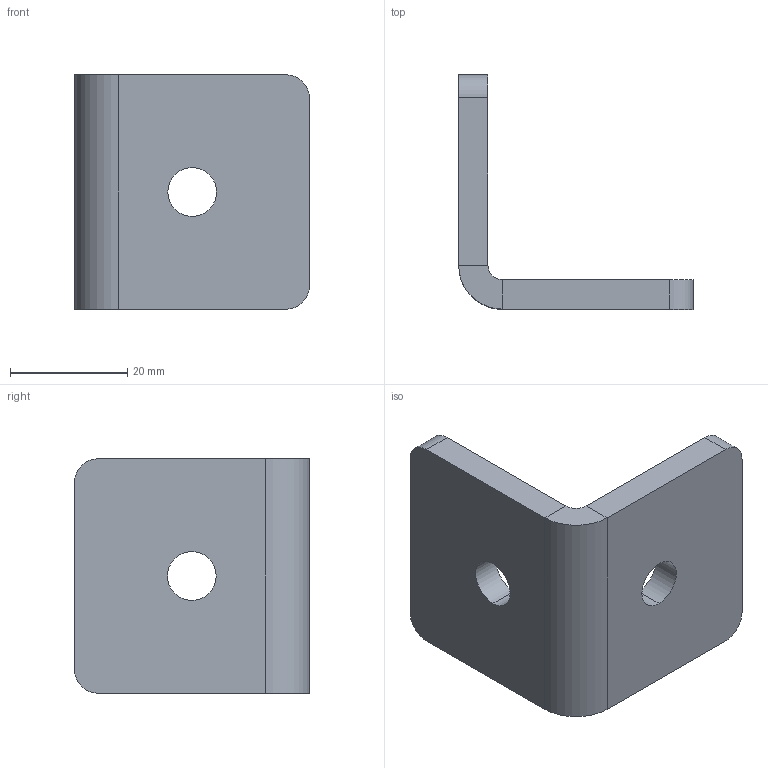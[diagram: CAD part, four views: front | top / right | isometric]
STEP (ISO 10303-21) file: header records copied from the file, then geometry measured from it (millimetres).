
FILE_DESCRIPTION (( 'STEP AP214' ), '1' );
FILE_NAME ('967-40-40-L-2-SW.step', '2023-06-26T09:08:29', ( '' ), ( '' ), 'SwSTEP 2.0', 'SolidWorks 2022', '' );
FILE_SCHEMA (( 'AUTOMOTIVE_DESIGN' ));
Length unit declared in the file: millimetre
Products named in the file (1): 967-40-40-L-2-SW
Bounding box: 40.05 x 40.05 x 40 mm (x, y, z)
Volume: 13980.8 mm3; surface area: 6948.3 mm2
Topology: 1 solids, 1 shells, 22 faces, 52 edges, 32 vertices
Faces by surface type: plane 12, cylinder 10
Entity records: 674 total; most frequent: DIRECTION 118, CARTESIAN_POINT 107, ORIENTED_EDGE 104, EDGE_CURVE 52, AXIS2_PLACEMENT_3D 43, VECTOR 32, LINE 32, VERTEX_POINT 32
